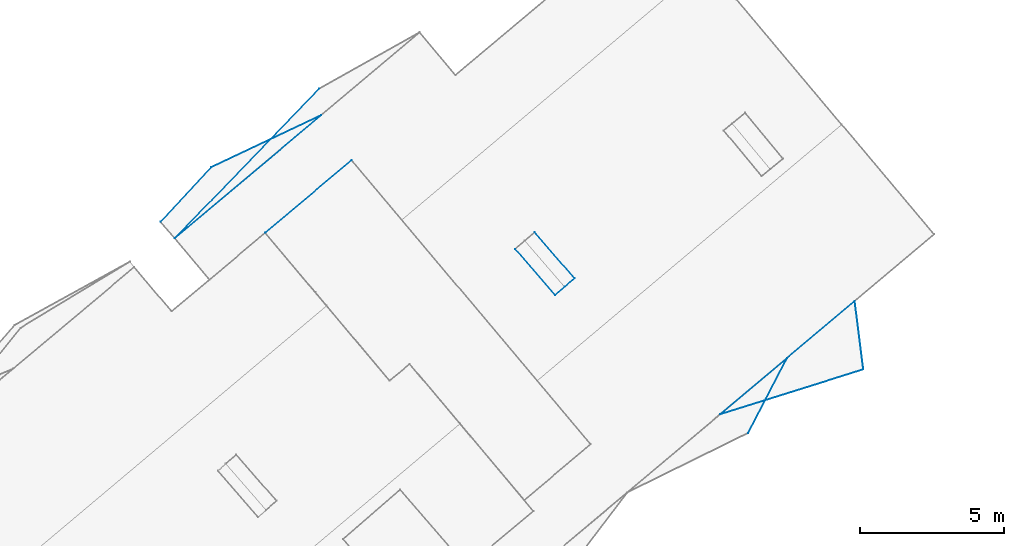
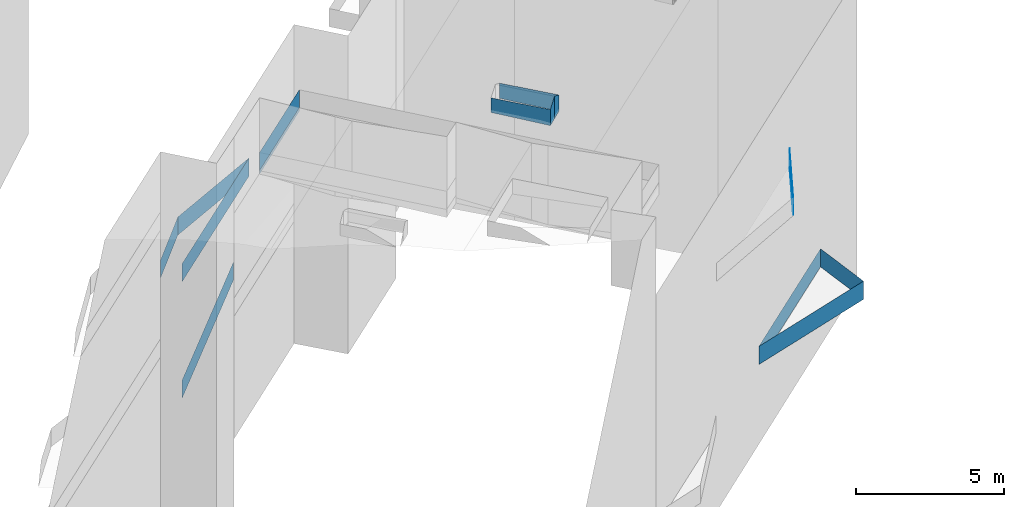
# Not in any storey, part 46 of 136: 23 walls.
"""IFC4 building model written with IfcOpenShell, lengths in metres."""

from ifc_helpers import new_model, entity, si_unit, converted_unit, frame, origin, place, context, subcontext, project, spatial, face_set, surface_model, element, save


model = new_model("IFC4")

# Units and contexts
model_context = context("Model", 3, precision=1e-05, world=origin())
body_context = subcontext(model_context, "Body", "Model", "MODEL_VIEW")
ifc_project = project(units=[converted_unit("PLANEANGLEUNIT", "DEGREE", entity("IfcRatioMeasure", 0.0174532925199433), si_unit("PLANEANGLEUNIT", "RADIAN"), dimensions=[0, 0, 0, 0, 0, 0, 0]), si_unit("AREAUNIT", "SQUARE_METRE"), si_unit("LENGTHUNIT", "METRE")], contexts=[model_context])

# Site, building
site_placement = place(None, origin())
site = spatial("IfcSite", under=ifc_project, at=site_placement, Name="_site")
building_placement = place(site_placement, origin())
building = spatial("IfcBuilding", under=site, at=building_placement, Name="_building")

# Walls
wall_1_placement = place(building_placement, origin())
element("IfcWall", 1, at=wall_1_placement, inside=building, Name="Wall", PredefinedType="NOTDEFINED", context=body_context, shape_type="SurfaceModel", body=[
    surface_model("IfcFaceBasedSurfaceModel", [(56.77, 70.15, 51.61), (55.38, 71.75, 51.61), (55.38, 71.75, 51.008), (56.77, 70.15, 50.949)], [face_set([[[0, 1, 2, 3]]])]),
])
wall_2_placement = place(building_placement, origin())
element("IfcWall", 2, at=wall_2_placement, inside=building, Name="Wall", PredefinedType="NOTDEFINED", context=body_context, shape_type="SurfaceModel", body=[
    surface_model("IfcFaceBasedSurfaceModel", [(57.09, 70.43, 51.88), (56.77, 70.15, 51.61), (56.77, 70.15, 50.949), (57.09, 70.43, 50.95)], [face_set([[[0, 1, 2, 3]]])]),
])
for number, where, name in (
    (3, (0.0, 0.0, 0.0), "Wall"),
    (4, (0.0, 0.0, 0.0), "Wall"),
):
    element("IfcWall", number, at=place(building_placement, frame(where)), inside=building, Name=name, PredefinedType="NOTDEFINED", context=body_context, shape_type="SurfaceModel", body=[
        surface_model("IfcFaceBasedSurfaceModel", [(43.54, 72.12, 43.12), (48.56, 77.32, 43.12), (48.56, 77.32, 43.87), (43.54, 72.12, 43.87)], [face_set([[[0, 1, 2, 3]]])]),
    ])
wall_3_placement = place(building_placement, origin())
element("IfcWall", 5, at=wall_3_placement, inside=building, Name="Wall", PredefinedType="NOTDEFINED", context=body_context, shape_type="SurfaceModel", body=[
    surface_model("IfcFaceBasedSurfaceModel", [(48.63, 76.4, 47.93), (43.54, 72.12, 47.93), (43.54, 72.12, 48.68), (48.63, 76.4, 48.68)], [face_set([[[0, 1, 2, 3]]])]),
])
wall_4_placement = place(building_placement, origin())
element("IfcWall", 6, at=wall_4_placement, inside=building, Name="Wall", PredefinedType="NOTDEFINED", context=body_context, shape_type="SurfaceModel", body=[
    surface_model("IfcFaceBasedSurfaceModel", [(44.81, 74.59, 47.93), (48.63, 76.4, 47.93), (48.63, 76.4, 48.68), (44.81, 74.59, 48.68)], [face_set([[[0, 1, 2, 3]]])]),
])
wall_5_placement = place(building_placement, origin())
element("IfcWall", 7, at=wall_5_placement, inside=building, Name="Wall", PredefinedType="NOTDEFINED", context=body_context, shape_type="SurfaceModel", body=[
    surface_model("IfcFaceBasedSurfaceModel", [(43.04, 72.69, 47.93), (44.81, 74.59, 47.93), (44.81, 74.59, 48.68), (43.04, 72.69, 48.68)], [face_set([[[0, 1, 2, 3]]])]),
])
wall_6_placement = place(building_placement, origin())
element("IfcWall", 8, at=wall_6_placement, inside=building, Name="Wall", PredefinedType="NOTDEFINED", context=body_context, shape_type="SurfaceModel", body=[
    surface_model("IfcFaceBasedSurfaceModel", [(48.63, 76.4, 47.93), (43.54, 72.12, 47.93), (43.54, 72.12, 48.68), (48.63, 76.4, 48.68)], [face_set([[[0, 1, 2, 3]]])]),
])
wall_7_placement = place(building_placement, origin())
element("IfcWall", 9, at=wall_7_placement, inside=building, Name="Wall", PredefinedType="NOTDEFINED", context=body_context, shape_type="SurfaceModel", body=[
    surface_model("IfcFaceBasedSurfaceModel", [(44.81, 74.59, 47.93), (48.63, 76.4, 47.93), (48.63, 76.4, 48.68), (44.81, 74.59, 48.68)], [face_set([[[0, 1, 2, 3]]])]),
])
wall_8_placement = place(building_placement, origin())
element("IfcWall", 10, at=wall_8_placement, inside=building, Name="Wall", PredefinedType="NOTDEFINED", context=body_context, shape_type="SurfaceModel", body=[
    surface_model("IfcFaceBasedSurfaceModel", [(43.04, 72.69, 47.93), (44.81, 74.59, 47.93), (44.81, 74.59, 48.68), (43.04, 72.69, 48.68)], [face_set([[[0, 1, 2, 3]]])]),
])
wall_9_placement = place(building_placement, origin())
element("IfcWall", 11, at=wall_9_placement, inside=building, Name="Wall", PredefinedType="NOTDEFINED", context=body_context, shape_type="SurfaceModel", body=[
    surface_model("IfcFaceBasedSurfaceModel", [(57.44, 70.73, 51.63), (57.09, 70.43, 51.88), (57.09, 70.43, 50.95), (57.44, 70.73, 50.95)], [face_set([[[0, 1, 2, 3]]])]),
])
wall_10_placement = place(building_placement, origin())
element("IfcWall", 12, at=wall_10_placement, inside=building, Name="Wall", PredefinedType="NOTDEFINED", context=body_context, shape_type="SurfaceModel", body=[
    surface_model("IfcFaceBasedSurfaceModel", [(56.05, 72.33, 51.63), (57.44, 70.73, 51.63), (57.44, 70.73, 50.95), (56.05, 72.33, 51.009)], [face_set([[[0, 1, 2, 3]]])]),
])
wall_11_placement = place(building_placement, origin())
element("IfcWall", 13, at=wall_11_placement, inside=building, Name="Wall", PredefinedType="NOTDEFINED", context=body_context, shape_type="SurfaceModel", body=[
    surface_model("IfcFaceBasedSurfaceModel", [(46.68, 72.311, 51.314), (49.69, 74.84, 51.314), (49.69, 74.84, 51.174), (46.68, 72.311, 51.172)], [face_set([[[0, 1, 2, 3]]])]),
])
wall_12_placement = place(building_placement, origin())
element("IfcWall", 14, at=wall_12_placement, inside=building, Name="Wall", PredefinedType="NOTDEFINED", context=body_context, shape_type="SurfaceModel", body=[
    surface_model("IfcFaceBasedSurfaceModel", [(67.48, 67.561, 41.61), (62.5, 66.0, 41.61), (62.5, 66.0, 42.36), (67.48, 67.561, 42.36)], [face_set([[[0, 1, 2, 3]]])]),
])
wall_13_placement = place(building_placement, origin())
element("IfcWall", 15, at=wall_13_placement, inside=building, Name="Wall", PredefinedType="NOTDEFINED", context=body_context, shape_type="SurfaceModel", body=[
    surface_model("IfcFaceBasedSurfaceModel", [(67.18, 69.94, 41.61), (67.48, 67.561, 41.61), (67.48, 67.561, 42.36), (67.18, 69.94, 42.36)], [face_set([[[0, 1, 2, 3]]])]),
])
wall_14_placement = place(building_placement, origin())
element("IfcWall", 16, at=wall_14_placement, inside=building, Name="Wall", PredefinedType="NOTDEFINED", context=body_context, shape_type="SurfaceModel", body=[
    surface_model("IfcFaceBasedSurfaceModel", [(62.5, 66.0, 41.61), (67.18, 69.94, 41.61), (67.18, 69.94, 42.36), (62.5, 66.0, 42.36)], [face_set([[[0, 1, 2, 3]]])]),
])
wall_15_placement = place(building_placement, origin())
element("IfcWall", 17, at=wall_15_placement, inside=building, Name="Wall", PredefinedType="NOTDEFINED", context=body_context, shape_type="SurfaceModel", body=[
    surface_model("IfcFaceBasedSurfaceModel", [(67.48, 67.561, 41.61), (62.5, 66.0, 41.61), (62.5, 66.0, 42.36), (67.48, 67.561, 42.36)], [face_set([[[0, 1, 2, 3]]])]),
])
wall_16_placement = place(building_placement, origin())
element("IfcWall", 18, at=wall_16_placement, inside=building, Name="Wall", PredefinedType="NOTDEFINED", context=body_context, shape_type="SurfaceModel", body=[
    surface_model("IfcFaceBasedSurfaceModel", [(67.18, 69.94, 41.61), (67.48, 67.561, 41.61), (67.48, 67.561, 42.36), (67.18, 69.94, 42.36)], [face_set([[[0, 1, 2, 3]]])]),
])
for number, where, name in (
    (19, (0.0, 0.0, 0.0), "Wall"),
    (20, (0.0, 0.0, 0.0), "Wall"),
):
    element("IfcWall", number, at=place(building_placement, frame(where)), inside=building, Name=name, PredefinedType="NOTDEFINED", context=body_context, shape_type="SurfaceModel", body=[
        surface_model("IfcFaceBasedSurfaceModel", [(46.68, 72.311, 51.314), (49.69, 74.84, 51.314), (49.69, 74.84, 52.064), (46.68, 72.311, 52.064)], [face_set([[[0, 1, 2, 3]]])]),
    ])
wall_17_placement = place(building_placement, origin())
element("IfcWall", 21, at=wall_17_placement, inside=building, Name="Wall", PredefinedType="NOTDEFINED", context=body_context, shape_type="SurfaceModel", body=[
    surface_model("IfcFaceBasedSurfaceModel", [(62.5, 66.0, 41.61), (67.18, 69.94, 41.61), (67.18, 69.94, 42.36), (62.5, 66.0, 42.36)], [face_set([[[0, 1, 2, 3]]])]),
])
for number, where, name in (
    (22, (0.0, 0.0, 0.0), "Wall"),
    (23, (0.0, 0.0, 0.0), "Wall"),
):
    element("IfcWall", number, at=place(building_placement, frame(where)), inside=building, Name=name, PredefinedType="NOTDEFINED", context=body_context, shape_type="SurfaceModel", body=[
        surface_model("IfcFaceBasedSurfaceModel", [(64.83, 67.96, 47.81), (63.47, 65.351, 47.81), (63.47, 65.351, 48.56), (64.83, 67.96, 48.56)], [face_set([[[0, 1, 2, 3]]])]),
    ])

save(model, "model.ifc")
